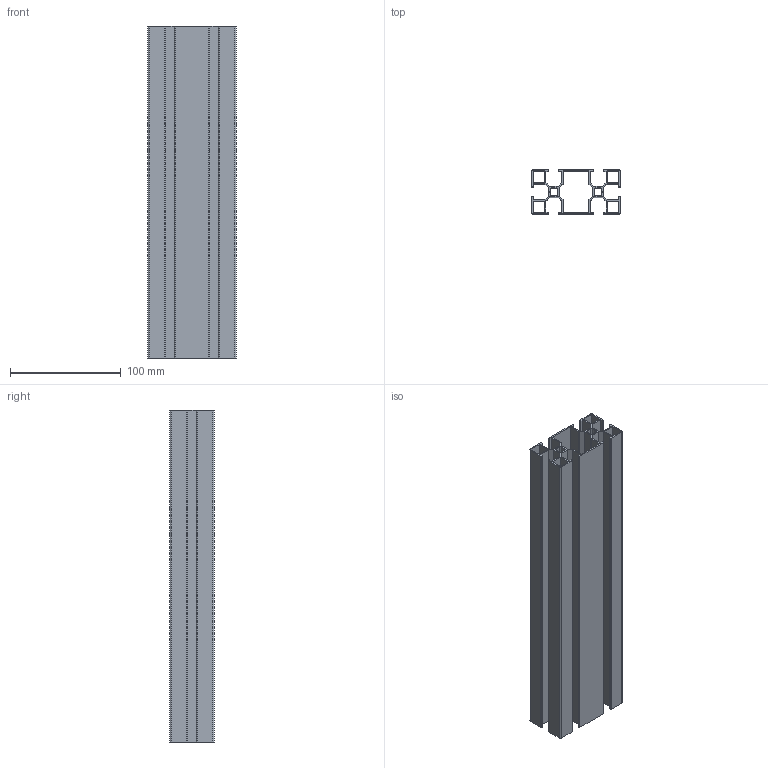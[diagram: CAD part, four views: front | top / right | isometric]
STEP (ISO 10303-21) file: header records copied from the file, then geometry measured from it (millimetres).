
FILE_DESCRIPTION (( 'STEP AP203' ), '1' );
FILE_NAME ('CG-4080LA-8.STEP', '2022-07-08T03:14:54', ( '微软用户' ), ( '微软中国' ), 'SwSTEP 2.0', 'SolidWorks 2017', '' );
FILE_SCHEMA (( 'CONFIG_CONTROL_DESIGN' ));
Length unit declared in the file: millimetre
Products named in the file (1): CG-4080LA-8
Bounding box: 80 x 40 x 300 mm (x, y, z)
Volume: 154602.6 mm3; surface area: 242640.9 mm2
Topology: 1 solids, 1 shells, 164 faces, 486 edges, 324 vertices
Faces by surface type: plane 110, cylinder 54
Entity records: 5583 total; most frequent: CARTESIAN_POINT 975, ORIENTED_EDGE 972, DIRECTION 924, EDGE_CURVE 486, LINE 378, VECTOR 378, VERTEX_POINT 324, AXIS2_PLACEMENT_3D 273
